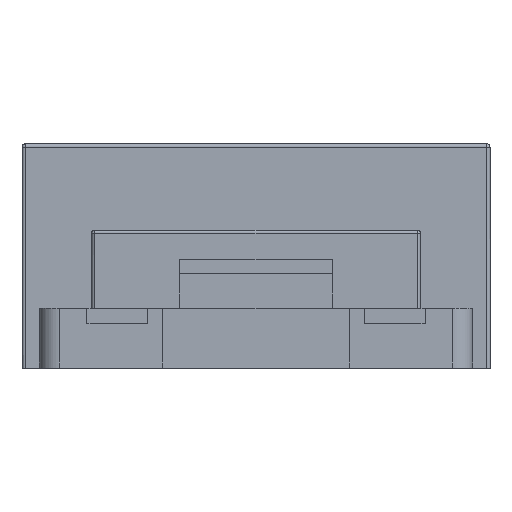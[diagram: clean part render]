
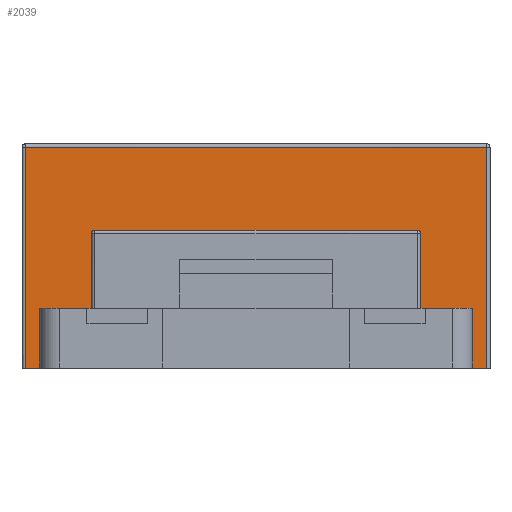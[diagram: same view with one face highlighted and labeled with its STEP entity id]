
A CAD part, front view. The second image highlights one B-rep face of the part: STEP entity #2039.
In plain terms, the highlighted free-form (B-spline) face has degree [1, 1] with [2, 2] control points.
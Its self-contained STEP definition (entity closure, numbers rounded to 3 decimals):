
#1145=CARTESIAN_POINT('',(19.279,-14.03,-4.32));
#1146=VERTEX_POINT('',#1145);
#1147=CARTESIAN_POINT('',(19.129,-14.03,-4.17));
#1148=VERTEX_POINT('',#1147);
#1149=CARTESIAN_POINT('',(19.279,-14.03,-4.32));
#1150=CARTESIAN_POINT('',(19.279,-14.03,-4.296));
#1151=CARTESIAN_POINT('',(19.275,-14.03,-4.273));
#1152=CARTESIAN_POINT('',(19.265,-14.03,-4.251));
#1153=CARTESIAN_POINT('',(19.239,-14.03,-4.211));
#1154=CARTESIAN_POINT('',(19.199,-14.03,-4.184));
#1155=CARTESIAN_POINT('',(19.176,-14.03,-4.175));
#1156=CARTESIAN_POINT('',(19.153,-14.03,-4.17));
#1157=CARTESIAN_POINT('',(19.129,-14.03,-4.17));
#1158=B_SPLINE_CURVE_WITH_KNOTS('',5,(#1149,#1150,#1151,#1152,#1153,#1154,#1155,#1156,#1157),.UNSPECIFIED.,.F.,.U.,(6,3,6),(0.,0.785,1.571),.UNSPECIFIED.);
#1159=EDGE_CURVE('',#1146,#1148,#1158,.T.);
#1228=CARTESIAN_POINT('',(3.529,-14.03,-4.17));
#1229=VERTEX_POINT('',#1228);
#1230=CARTESIAN_POINT('',(3.379,-14.03,-4.32));
#1231=VERTEX_POINT('',#1230);
#1232=CARTESIAN_POINT('',(3.529,-14.03,-4.17));
#1233=CARTESIAN_POINT('',(3.506,-14.03,-4.17));
#1234=CARTESIAN_POINT('',(3.482,-14.03,-4.175));
#1235=CARTESIAN_POINT('',(3.46,-14.03,-4.184));
#1236=CARTESIAN_POINT('',(3.42,-14.03,-4.211));
#1237=CARTESIAN_POINT('',(3.393,-14.03,-4.251));
#1238=CARTESIAN_POINT('',(3.384,-14.03,-4.273));
#1239=CARTESIAN_POINT('',(3.379,-14.03,-4.296));
#1240=CARTESIAN_POINT('',(3.379,-14.03,-4.32));
#1241=B_SPLINE_CURVE_WITH_KNOTS('',5,(#1232,#1233,#1234,#1235,#1236,#1237,#1238,#1239,#1240),.UNSPECIFIED.,.F.,.U.,(6,3,6),(0.,0.785,1.571),.UNSPECIFIED.);
#1242=EDGE_CURVE('',#1229,#1231,#1241,.T.);
#1337=CARTESIAN_POINT('',(3.379,-14.03,-7.95));
#1338=VERTEX_POINT('',#1337);
#1339=CARTESIAN_POINT('',(3.379,-14.03,-7.95));
#1340=CARTESIAN_POINT('',(3.379,-14.03,-7.224));
#1341=CARTESIAN_POINT('',(3.379,-14.03,-6.498));
#1342=CARTESIAN_POINT('',(3.379,-14.03,-5.772));
#1343=CARTESIAN_POINT('',(3.379,-14.03,-5.046));
#1344=CARTESIAN_POINT('',(3.379,-14.03,-4.32));
#1345=B_SPLINE_CURVE_WITH_KNOTS('',5,(#1339,#1340,#1341,#1342,#1343,#1344),.UNSPECIFIED.,.F.,.U.,(6,6),(0.,3.63),.UNSPECIFIED.);
#1346=EDGE_CURVE('',#1338,#1231,#1345,.T.);
#1386=CARTESIAN_POINT('',(22.504,-14.03,-0.15));
#1387=VERTEX_POINT('',#1386);
#1442=CARTESIAN_POINT('',(22.504,-14.03,-10.85));
#1443=VERTEX_POINT('',#1442);
#1468=CARTESIAN_POINT('',(22.504,-14.03,-0.15));
#1469=CARTESIAN_POINT('',(22.504,-14.03,-2.29));
#1470=CARTESIAN_POINT('',(22.504,-14.03,-4.43));
#1471=CARTESIAN_POINT('',(22.504,-14.03,-6.57));
#1472=CARTESIAN_POINT('',(22.504,-14.03,-8.71));
#1473=CARTESIAN_POINT('',(22.504,-14.03,-10.85));
#1474=B_SPLINE_CURVE_WITH_KNOTS('',5,(#1468,#1469,#1470,#1471,#1472,#1473),.UNSPECIFIED.,.F.,.U.,(6,6),(0.,10.7),.UNSPECIFIED.);
#1475=EDGE_CURVE('',#1387,#1443,#1474,.T.);
#1664=CARTESIAN_POINT('',(0.154,-14.03,-0.15));
#1665=VERTEX_POINT('',#1664);
#1706=CARTESIAN_POINT('',(0.154,-14.03,-10.85));
#1707=VERTEX_POINT('',#1706);
#1720=CARTESIAN_POINT('',(0.154,-14.03,-10.85));
#1721=CARTESIAN_POINT('',(0.154,-14.03,-8.71));
#1722=CARTESIAN_POINT('',(0.154,-14.03,-6.57));
#1723=CARTESIAN_POINT('',(0.154,-14.03,-4.43));
#1724=CARTESIAN_POINT('',(0.154,-14.03,-2.29));
#1725=CARTESIAN_POINT('',(0.154,-14.03,-0.15));
#1726=B_SPLINE_CURVE_WITH_KNOTS('',5,(#1720,#1721,#1722,#1723,#1724,#1725),.UNSPECIFIED.,.F.,.U.,(6,6),(0.,10.7),.UNSPECIFIED.);
#1727=EDGE_CURVE('',#1707,#1665,#1726,.T.);
#1764=CARTESIAN_POINT('',(0.154,-14.03,-0.15));
#1765=CARTESIAN_POINT('',(4.624,-14.03,-0.15));
#1766=CARTESIAN_POINT('',(9.094,-14.03,-0.15));
#1767=CARTESIAN_POINT('',(13.564,-14.03,-0.15));
#1768=CARTESIAN_POINT('',(18.034,-14.03,-0.15));
#1769=CARTESIAN_POINT('',(22.504,-14.03,-0.15));
#1770=B_SPLINE_CURVE_WITH_KNOTS('',5,(#1764,#1765,#1766,#1767,#1768,#1769),.UNSPECIFIED.,.F.,.U.,(6,6),(0.,22.35),.UNSPECIFIED.);
#1771=EDGE_CURVE('',#1665,#1387,#1770,.T.);
#1944=CARTESIAN_POINT('',(22.504,-14.03,-10.85));
#1945=CARTESIAN_POINT('',(22.504,-14.03,-0.15));
#1946=CARTESIAN_POINT('',(0.154,-14.03,-10.85));
#1947=CARTESIAN_POINT('',(0.154,-14.03,-0.15));
#1948=B_SPLINE_SURFACE_WITH_KNOTS('',1,1,((#1944,#1945),(#1946,#1947)),.PLANE_SURF.,.F.,.F.,.U.,(2,2),(2,2),(0.,2.089),(0.,1.),.UNSPECIFIED.);
#1949=CARTESIAN_POINT('',(21.817,-14.03,-10.85));
#1950=VERTEX_POINT('',#1949);
#1951=CARTESIAN_POINT('',(21.817,-14.03,-10.85));
#1952=CARTESIAN_POINT('',(21.954,-14.03,-10.85));
#1953=CARTESIAN_POINT('',(22.092,-14.03,-10.85));
#1954=CARTESIAN_POINT('',(22.229,-14.03,-10.85));
#1955=CARTESIAN_POINT('',(22.367,-14.03,-10.85));
#1956=CARTESIAN_POINT('',(22.504,-14.03,-10.85));
#1957=B_SPLINE_CURVE_WITH_KNOTS('',5,(#1951,#1952,#1953,#1954,#1955,#1956),.UNSPECIFIED.,.F.,.U.,(6,6),(0.,0.687),.UNSPECIFIED.);
#1958=EDGE_CURVE('',#1950,#1443,#1957,.T.);
#1959=ORIENTED_EDGE('',*,*,#1958,.F.);
#1960=CARTESIAN_POINT('',(21.817,-14.03,-7.95));
#1961=VERTEX_POINT('',#1960);
#1962=CARTESIAN_POINT('',(21.817,-14.03,-10.85));
#1963=CARTESIAN_POINT('',(21.817,-14.03,-10.27));
#1964=CARTESIAN_POINT('',(21.817,-14.03,-9.69));
#1965=CARTESIAN_POINT('',(21.817,-14.03,-9.11));
#1966=CARTESIAN_POINT('',(21.817,-14.03,-8.53));
#1967=CARTESIAN_POINT('',(21.817,-14.03,-7.95));
#1968=B_SPLINE_CURVE_WITH_KNOTS('',5,(#1962,#1963,#1964,#1965,#1966,#1967),.UNSPECIFIED.,.F.,.U.,(6,6),(0.,2.9),.UNSPECIFIED.);
#1969=EDGE_CURVE('',#1950,#1961,#1968,.T.);
#1970=ORIENTED_EDGE('',*,*,#1969,.T.);
#1971=CARTESIAN_POINT('',(19.279,-14.03,-7.95));
#1972=VERTEX_POINT('',#1971);
#1973=CARTESIAN_POINT('',(21.817,-14.03,-7.95));
#1974=CARTESIAN_POINT('',(21.309,-14.03,-7.95));
#1975=CARTESIAN_POINT('',(20.802,-14.03,-7.95));
#1976=CARTESIAN_POINT('',(20.294,-14.03,-7.95));
#1977=CARTESIAN_POINT('',(19.787,-14.03,-7.95));
#1978=CARTESIAN_POINT('',(19.279,-14.03,-7.95));
#1979=B_SPLINE_CURVE_WITH_KNOTS('',5,(#1973,#1974,#1975,#1976,#1977,#1978),.UNSPECIFIED.,.F.,.U.,(6,6),(0.,2.538),.UNSPECIFIED.);
#1980=EDGE_CURVE('',#1961,#1972,#1979,.T.);
#1981=ORIENTED_EDGE('',*,*,#1980,.T.);
#1982=CARTESIAN_POINT('',(19.279,-14.03,-4.32));
#1983=CARTESIAN_POINT('',(19.279,-14.03,-5.046));
#1984=CARTESIAN_POINT('',(19.279,-14.03,-5.772));
#1985=CARTESIAN_POINT('',(19.279,-14.03,-6.498));
#1986=CARTESIAN_POINT('',(19.279,-14.03,-7.224));
#1987=CARTESIAN_POINT('',(19.279,-14.03,-7.95));
#1988=B_SPLINE_CURVE_WITH_KNOTS('',5,(#1982,#1983,#1984,#1985,#1986,#1987),.UNSPECIFIED.,.F.,.U.,(6,6),(0.,3.63),.UNSPECIFIED.);
#1989=EDGE_CURVE('',#1146,#1972,#1988,.T.);
#1990=ORIENTED_EDGE('',*,*,#1989,.F.);
#1991=ORIENTED_EDGE('',*,*,#1159,.T.);
#1992=CARTESIAN_POINT('',(3.529,-14.03,-4.17));
#1993=CARTESIAN_POINT('',(6.649,-14.03,-4.17));
#1994=CARTESIAN_POINT('',(9.769,-14.03,-4.17));
#1995=CARTESIAN_POINT('',(12.889,-14.03,-4.17));
#1996=CARTESIAN_POINT('',(16.009,-14.03,-4.17));
#1997=CARTESIAN_POINT('',(19.129,-14.03,-4.17));
#1998=B_SPLINE_CURVE_WITH_KNOTS('',5,(#1992,#1993,#1994,#1995,#1996,#1997),.UNSPECIFIED.,.F.,.U.,(6,6),(0.,15.6),.UNSPECIFIED.);
#1999=EDGE_CURVE('',#1229,#1148,#1998,.T.);
#2000=ORIENTED_EDGE('',*,*,#1999,.F.);
#2001=ORIENTED_EDGE('',*,*,#1242,.T.);
#2002=ORIENTED_EDGE('',*,*,#1346,.F.);
#2003=CARTESIAN_POINT('',(0.842,-14.03,-7.95));
#2004=VERTEX_POINT('',#2003);
#2005=CARTESIAN_POINT('',(3.379,-14.03,-7.95));
#2006=CARTESIAN_POINT('',(2.872,-14.03,-7.95));
#2007=CARTESIAN_POINT('',(2.364,-14.03,-7.95));
#2008=CARTESIAN_POINT('',(1.857,-14.03,-7.95));
#2009=CARTESIAN_POINT('',(1.349,-14.03,-7.95));
#2010=CARTESIAN_POINT('',(0.842,-14.03,-7.95));
#2011=B_SPLINE_CURVE_WITH_KNOTS('',5,(#2005,#2006,#2007,#2008,#2009,#2010),.UNSPECIFIED.,.F.,.U.,(6,6),(0.,2.538),.UNSPECIFIED.);
#2012=EDGE_CURVE('',#1338,#2004,#2011,.T.);
#2013=ORIENTED_EDGE('',*,*,#2012,.T.);
#2014=CARTESIAN_POINT('',(0.842,-14.03,-10.85));
#2015=VERTEX_POINT('',#2014);
#2016=CARTESIAN_POINT('',(0.842,-14.03,-10.85));
#2017=CARTESIAN_POINT('',(0.842,-14.03,-10.27));
#2018=CARTESIAN_POINT('',(0.842,-14.03,-9.69));
#2019=CARTESIAN_POINT('',(0.842,-14.03,-9.11));
#2020=CARTESIAN_POINT('',(0.842,-14.03,-8.53));
#2021=CARTESIAN_POINT('',(0.842,-14.03,-7.95));
#2022=B_SPLINE_CURVE_WITH_KNOTS('',5,(#2016,#2017,#2018,#2019,#2020,#2021),.UNSPECIFIED.,.F.,.U.,(6,6),(0.,2.9),.UNSPECIFIED.);
#2023=EDGE_CURVE('',#2015,#2004,#2022,.T.);
#2024=ORIENTED_EDGE('',*,*,#2023,.F.);
#2025=CARTESIAN_POINT('',(0.842,-14.03,-10.85));
#2026=CARTESIAN_POINT('',(0.704,-14.03,-10.85));
#2027=CARTESIAN_POINT('',(0.567,-14.03,-10.85));
#2028=CARTESIAN_POINT('',(0.429,-14.03,-10.85));
#2029=CARTESIAN_POINT('',(0.292,-14.03,-10.85));
#2030=CARTESIAN_POINT('',(0.154,-14.03,-10.85));
#2031=B_SPLINE_CURVE_WITH_KNOTS('',5,(#2025,#2026,#2027,#2028,#2029,#2030),.UNSPECIFIED.,.F.,.U.,(6,6),(0.,0.687),.UNSPECIFIED.);
#2032=EDGE_CURVE('',#2015,#1707,#2031,.T.);
#2033=ORIENTED_EDGE('',*,*,#2032,.T.);
#2034=ORIENTED_EDGE('',*,*,#1727,.T.);
#2035=ORIENTED_EDGE('',*,*,#1771,.T.);
#2036=ORIENTED_EDGE('',*,*,#1475,.T.);
#2037=EDGE_LOOP('',(#1959,#1970,#1981,#1990,#1991,#2000,#2001,#2002,#2013,#2024,#2033,#2034,#2035,#2036));
#2038=FACE_OUTER_BOUND('',#2037,.F.);
#2039=ADVANCED_FACE('',(#2038),#1948,.F.);
